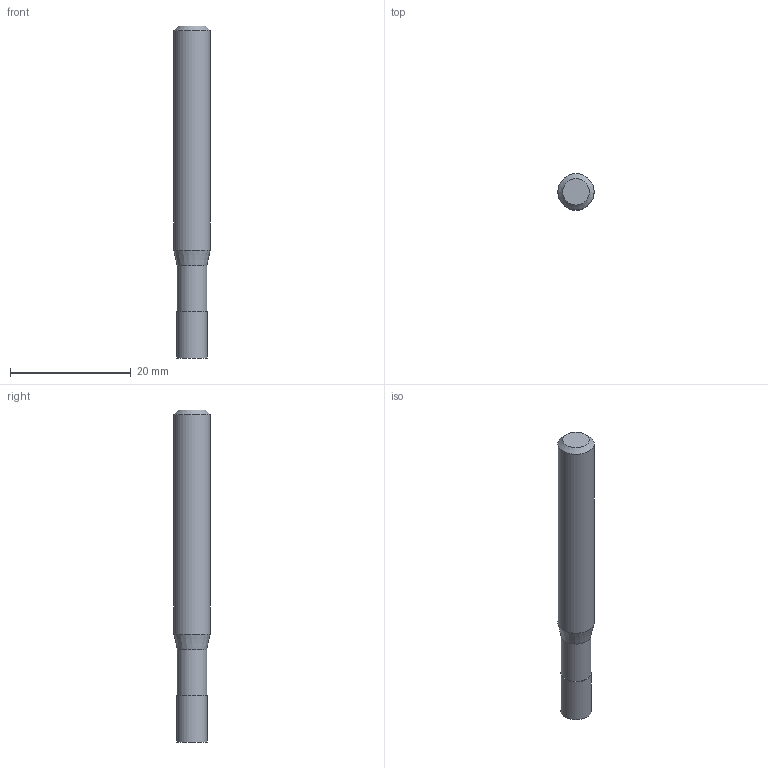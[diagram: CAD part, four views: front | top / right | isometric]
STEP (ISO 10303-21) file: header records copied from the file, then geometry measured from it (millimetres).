
FILE_DESCRIPTION((''),'2;1');
FILE_NAME('C:\Users\nsx150\AppData\Local\Temp\Mastercam 2021\EUJSUNXURU\TEMP.step','2021-04-22T10:28:34',(''),(''),'STEP Write','Mastercam 2021 ... CNC Software, Inc.','');
FILE_SCHEMA(('AUTOMOTIVE_DESIGN'));
Length unit declared in the file: millimetre
Products named in the file (1): None
Bounding box: 6 x 6 x 55 mm (x, y, z)
Volume: 1405 mm3; surface area: 1063.5 mm2
Topology: 2 solids, 2 shells, 9 faces, 12 edges, 7 vertices
Faces by surface type: plane 4, cylinder 3, cone 2
Full cylindrical faces by diameter (mm): 4.9 x1, 5.1 x1, 6 x1
Entity records: 211 total; most frequent: DIRECTION 36, CARTESIAN_POINT 25, AXIS2_PLACEMENT_3D 18, ORIENTED_EDGE 14, EDGE_LOOP 14, STYLED_ITEM 12, ADVANCED_FACE 9, FACE_BOUND 8
